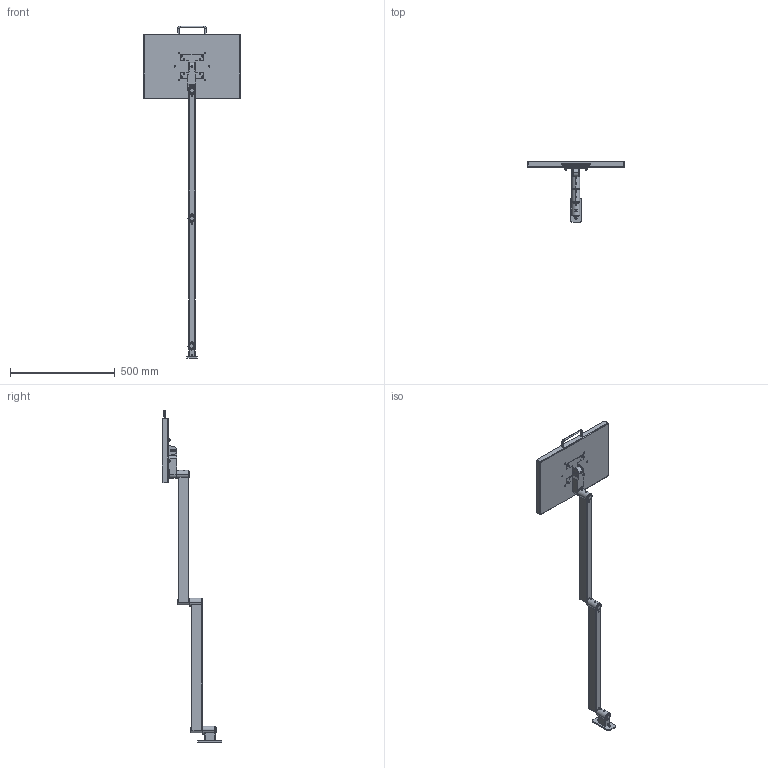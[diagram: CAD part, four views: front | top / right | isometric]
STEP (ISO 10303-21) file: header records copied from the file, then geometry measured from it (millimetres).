
FILE_DESCRIPTION (( 'STEP AP203' ), '1' );
FILE_NAME ('70-0702-00 REV AA, 48in RIGID SYSTEM, TILTING TRAY, WALL MOUNT - EXTENDED FLAT.STEP', '2025-07-22T22:11:13', ( '' ), ( '' ), 'SwSTEP 2.0', 'SolidWorks 2025', '' );
FILE_SCHEMA (( 'CONFIG_CONTROL_DESIGN' ));
Length unit declared in the file: inch
Products named in the file (29): 002-088-00, FHSCS 10-32 x .5L, BO_002-088-00; 11-0062-BLKX REV AA, BRACKET, VESA, SHEETMETAL, BLACK; 002-090-00, FHSCS 10-32 x .625L_002-090-00; 71-1061-RX REV AA, BODY, VESA, RAW_MACHINE; 016-008-00, OILITE PLUS BEARING, 0.876 id x 1.002 od x 1.25 lg; 006-008-00, NUT, HEX, 10-32 x .125_006-008-00; 70-0048-00 REV AA, CONNECTOR PIN ASSEMBLY, .875OD x 3.9; 71-1024-RX REV AA, HOUSING, 24in RIGID; 007-036-00, SHSS, 1''4-28, .25L_007-036-00; 70-0402-00 REV AA, 18x12 TILTING TOOL TRAY ASSEMBLY; 71-0090-RX REV AA, HOUSING, MOUNT; 70-0702-00 REV AA, 48in RIGID SYSTEM, TILTING TRAY, WALL MOUNT - EXTENDED FLAT; 016-007-00, OILITE PLUS BEARING, 0.876 id x 1.002 od x 0.75 lg; 71-0218-RX REV AA, PLATE, MICRO HD, 4.5 x 2.0 x .25_Laser; 11-0450-00 REV AA, FOAM, YELLOW, 18x12; 41-0063-RX REV AA, PIN, TILT, VESA; 70-0018-00 REV AA, MICRO HD WALL MOUNT; 025-067-00, HANDLE, U SHAPED, 8-32; 11-0401-00 REV AA, 18x12 TOOL TRAY, BLACK; 70-0060-00 REV AA, VESA ATTACHMENT; 71-0022-RX REV AA, PIN, RIGID SECTION; 002-100-00, BHSCS, 8-32x.375_002-100-00; 007-034-00, SHSS, .375-24, .25L_007-034-00; 010-012-00, RETAINING RING, EXTERNAL, .875in SHAFT; 71-2113-RX REV AA, HOUSING, BEARING, TALL, 1.5OD_MACHINE; 016-012-00, OILITE PLUS BEARING, .876 IDx1.0 OD x 1.0; 11-0028-RX REV AA, PLASTIC DISC, VESA; 70-0048-RX REV AA, CONNECTOR PIN, 875OD x 3.9; 70-1024-00 REV AA, 24in RIGID SECTION
Assembly tree (48 placements, depth 4):
  70-0702-00 REV AA, 48in RIGID SYSTEM, TILTING TRAY, WALL MOUNT - EXTENDED FLAT
    70-0018-00 REV AA, MICRO HD WALL MOUNT
      71-0218-RX REV AA, PLATE, MICRO HD, 4.5 x 2.0 x .25_Laser
      71-0090-RX REV AA, HOUSING, MOUNT
      71-2113-RX REV AA, HOUSING, BEARING, TALL, 1.5OD_MACHINE
      016-007-00, OILITE PLUS BEARING, 0.876 id x 1.002 od x 0.75 lg
      016-008-00, OILITE PLUS BEARING, 0.876 id x 1.002 od x 1.25 lg
      007-036-00, SHSS, 1''4-28, .25L_007-036-00
    70-1024-00 REV AA, 24in RIGID SECTION  x2
      71-1024-RX REV AA, HOUSING, 24in RIGID
      71-0022-RX REV AA, PIN, RIGID SECTION
      71-2113-RX REV AA, HOUSING, BEARING, TALL, 1.5OD_MACHINE
      016-007-00, OILITE PLUS BEARING, 0.876 id x 1.002 od x 0.75 lg
      016-008-00, OILITE PLUS BEARING, 0.876 id x 1.002 od x 1.25 lg
      007-036-00, SHSS, 1''4-28, .25L_007-036-00
      010-012-00, RETAINING RING, EXTERNAL, .875in SHAFT
    70-0048-00 REV AA, CONNECTOR PIN ASSEMBLY, .875OD x 3.9
      70-0048-RX REV AA, CONNECTOR PIN, 875OD x 3.9
      010-012-00, RETAINING RING, EXTERNAL, .875in SHAFT  x2
    70-0402-00 REV AA, 18x12 TILTING TOOL TRAY ASSEMBLY
      70-0060-00 REV AA, VESA ATTACHMENT
        71-1061-RX REV AA, BODY, VESA, RAW_MACHINE
        016-008-00, OILITE PLUS BEARING, 0.876 id x 1.002 od x 1.25 lg
        016-012-00, OILITE PLUS BEARING, .876 IDx1.0 OD x 1.0
        007-034-00, SHSS, .375-24, .25L_007-034-00
        41-0063-RX REV AA, PIN, TILT, VESA
        11-0028-RX REV AA, PLASTIC DISC, VESA  x2
        11-0062-BLKX REV AA, BRACKET, VESA, SHEETMETAL, BLACK
        002-088-00, FHSCS 10-32 x .5L, BO_002-088-00  x4
        007-036-00, SHSS, 1''4-28, .25L_007-036-00
      11-0401-00 REV AA, 18x12 TOOL TRAY, BLACK
      025-067-00, HANDLE, U SHAPED, 8-32
      11-0450-00 REV AA, FOAM, YELLOW, 18x12
      002-100-00, BHSCS, 8-32x.375_002-100-00  x2
      002-090-00, FHSCS 10-32 x .625L_002-090-00  x4
      006-008-00, NUT, HEX, 10-32 x .125_006-008-00  x4
Bounding box: 461.77 x 283.71 x 1583.54 mm (x, y, z)
Volume: 1773469.5 mm3; surface area: 1211755 mm2
Topology: 49 solids, 49 shells, 1870 faces, 4603 edges, 2831 vertices
Faces by surface type: cylinder 929, cone 412, plane 364, torus 112, bspline 49, sphere 4
Entity records: 35917 total; most frequent: CARTESIAN_POINT 14008, ORIENTED_EDGE 3868, DIRECTION 3831, EDGE_CURVE 1934, AXIS2_PLACEMENT_3D 1514, VERTEX_POINT 1198, EDGE_LOOP 906, VECTOR 803
